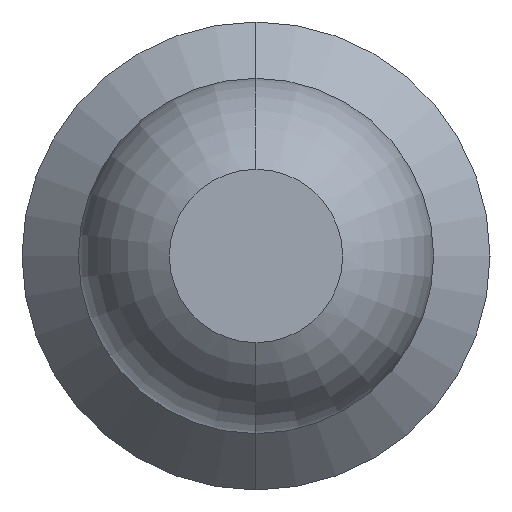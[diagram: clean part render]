
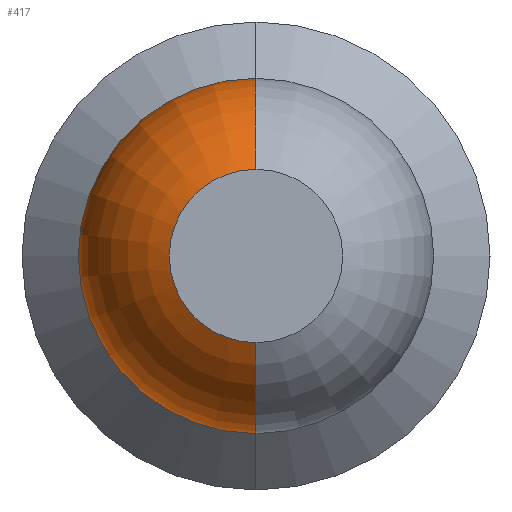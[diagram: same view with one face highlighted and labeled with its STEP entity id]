
A CAD part, left-side view. The second image highlights one B-rep face of the part: STEP entity #417.
In plain terms, the highlighted toroidal (fillet/blend) face has major radius 0.006 mm and minor radius 0.254 mm.
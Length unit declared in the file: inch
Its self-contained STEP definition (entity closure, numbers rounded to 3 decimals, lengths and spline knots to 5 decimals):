
#14 = VERTEX_POINT ( 'NONE', #86 ) ;
#20 = DIRECTION ( 'NONE',  ( 0., -1., 0. ) ) ;
#35 = CARTESIAN_POINT ( 'NONE',  ( 0.0088, 0., 0.01025 ) ) ;
#52 = TOROIDAL_SURFACE ( 'NONE', #532, 0.00025, 0.01 ) ;
#86 = CARTESIAN_POINT ( 'NONE',  ( 0., 0., 0.005 ) ) ;
#90 = CIRCLE ( 'NONE', #426, 0.01 ) ;
#107 = VERTEX_POINT ( 'NONE', #35 ) ;
#157 = CARTESIAN_POINT ( 'NONE',  ( 0.0088, 0., 0. ) ) ;
#170 = ORIENTED_EDGE ( 'NONE', *, *, #666, .T. ) ;
#172 = CARTESIAN_POINT ( 'NONE',  ( 0., 0., 0. ) ) ;
#185 = AXIS2_PLACEMENT_3D ( 'NONE', #172, #353, #582 ) ;
#196 = VERTEX_POINT ( 'NONE', #438 ) ;
#198 = CIRCLE ( 'NONE', #474, 0.01 ) ;
#237 = VERTEX_POINT ( 'NONE', #620 ) ;
#275 = EDGE_CURVE ( 'NONE', #107, #237, #696, .T. ) ;
#304 = CARTESIAN_POINT ( 'NONE',  ( 0.0088, 0., 0. ) ) ;
#334 = DIRECTION ( 'NONE',  ( 0., 0., 1. ) ) ;
#345 = EDGE_CURVE ( 'NONE', #14, #196, #492, .T. ) ;
#353 = DIRECTION ( 'NONE',  ( -1., 0., 0. ) ) ;
#369 = AXIS2_PLACEMENT_3D ( 'NONE', #157, #387, #334 ) ;
#387 = DIRECTION ( 'NONE',  ( -1., 0., 0. ) ) ;
#395 = DIRECTION ( 'NONE',  ( 0., 0., 1. ) ) ;
#411 = ORIENTED_EDGE ( 'NONE', *, *, #523, .F. ) ;
#417 = ADVANCED_FACE ( 'NONE', ( #683 ), #52, .T. ) ;
#426 = AXIS2_PLACEMENT_3D ( 'NONE', #602, #20, #707 ) ;
#438 = CARTESIAN_POINT ( 'NONE',  ( 0., 0., -0.005 ) ) ;
#458 = ORIENTED_EDGE ( 'NONE', *, *, #345, .F. ) ;
#474 = AXIS2_PLACEMENT_3D ( 'NONE', #613, #730, #395 ) ;
#477 = DIRECTION ( 'NONE',  ( -1., 0., 0. ) ) ;
#492 = CIRCLE ( 'NONE', #185, 0.005 ) ;
#523 = EDGE_CURVE ( 'NONE', #107, #14, #90, .T. ) ;
#532 = AXIS2_PLACEMENT_3D ( 'NONE', #304, #477, #598 ) ;
#556 = EDGE_LOOP ( 'NONE', ( #583, #170, #458, #411 ) ) ;
#582 = DIRECTION ( 'NONE',  ( 0., 0., 1. ) ) ;
#583 = ORIENTED_EDGE ( 'NONE', *, *, #275, .T. ) ;
#598 = DIRECTION ( 'NONE',  ( 0., 0., 1. ) ) ;
#602 = CARTESIAN_POINT ( 'NONE',  ( 0.0088, 0., 0.00025 ) ) ;
#613 = CARTESIAN_POINT ( 'NONE',  ( 0.0088, 0., -0.00025 ) ) ;
#620 = CARTESIAN_POINT ( 'NONE',  ( 0.0088, 0., -0.01025 ) ) ;
#666 = EDGE_CURVE ( 'NONE', #237, #196, #198, .T. ) ;
#683 = FACE_OUTER_BOUND ( 'NONE', #556, .T. ) ;
#696 = CIRCLE ( 'NONE', #369, 0.01025 ) ;
#707 = DIRECTION ( 'NONE',  ( 0., 0., -1. ) ) ;
#730 = DIRECTION ( 'NONE',  ( 0., 1., 0. ) ) ;
